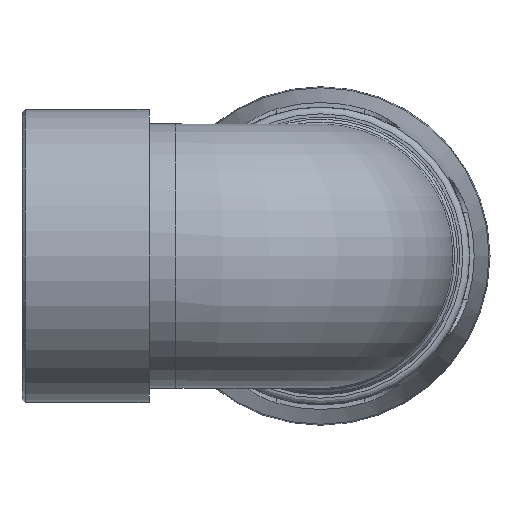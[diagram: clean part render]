
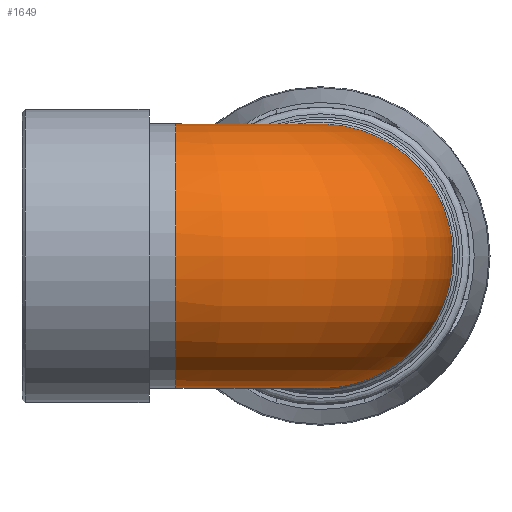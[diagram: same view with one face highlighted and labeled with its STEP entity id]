
A CAD part, left-side view. The second image highlights one B-rep face of the part: STEP entity #1649.
In plain terms, the highlighted toroidal (fillet/blend) face has major radius 36.4 mm and minor radius 33.144 mm.
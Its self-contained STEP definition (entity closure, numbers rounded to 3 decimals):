
#177=TOROIDAL_SURFACE('',#1800,36.4,33.144);
#187=B_SPLINE_CURVE_WITH_KNOTS('',3,(#2895,#2896,#2897,#2898,#2899,#2900,
#2901,#2902,#2903,#2904,#2905,#2906,#2907,#2908,#2909,#2910,#2911,#2912,
#2913,#2914,#2915,#2916,#2917,#2918),.UNSPECIFIED.,.T.,.F.,(4,1,1,1,1,1,
1,1,1,1,1,1,1,1,1,1,1,1,1,1,1,4),(-3.142,-3.029,-2.917,
-2.693,-2.468,-2.244,-1.795,
-1.346,-1.047,-0.748,-0.449,
-0.15,0.449,0.898,1.346,
1.795,2.244,2.468,2.693,2.917,
3.029,3.142),.UNSPECIFIED.);
#367=FACE_BOUND('',#522,.T.);
#398=FACE_OUTER_BOUND('',#521,.T.);
#521=EDGE_LOOP('',(#1202));
#522=EDGE_LOOP('',(#1203));
#669=CIRCLE('',#1795,33.144);
#763=VERTEX_POINT('',#2893);
#768=VERTEX_POINT('',#3012);
#930=EDGE_CURVE('',#763,#763,#187,.T.);
#935=EDGE_CURVE('',#768,#768,#669,.T.);
#1202=ORIENTED_EDGE('',*,*,#930,.F.);
#1203=ORIENTED_EDGE('',*,*,#935,.T.);
#1649=ADVANCED_FACE('',(#398,#367),#177,.T.);
#1795=AXIS2_PLACEMENT_3D('',#3013,#2049,#2050);
#1800=AXIS2_PLACEMENT_3D('',#3021,#2059,#2060);
#2049=DIRECTION('center_axis',(0.,-1.,0.));
#2050=DIRECTION('ref_axis',(-1.,0.,0.));
#2059=DIRECTION('center_axis',(0.,0.,1.));
#2060=DIRECTION('ref_axis',(1.,0.,0.));
#2893=CARTESIAN_POINT('',(33.338,35.293,0.));
#2895=CARTESIAN_POINT('Ctrl Pts',(33.339,35.295,0.));
#2896=CARTESIAN_POINT('Ctrl Pts',(33.339,35.295,1.244));
#2897=CARTESIAN_POINT('Ctrl Pts',(33.317,34.876,3.733));
#2898=CARTESIAN_POINT('Ctrl Pts',(33.435,33.239,8.593));
#2899=CARTESIAN_POINT('Ctrl Pts',(33.682,30.694,14.414));
#2900=CARTESIAN_POINT('Ctrl Pts',(33.824,26.532,20.713));
#2901=CARTESIAN_POINT('Ctrl Pts',(33.93,19.4,27.781));
#2902=CARTESIAN_POINT('Ctrl Pts',(33.977,7.929,33.375));
#2903=CARTESIAN_POINT('Ctrl Pts',(34.001,-5.693,33.45));
#2904=CARTESIAN_POINT('Ctrl Pts',(34.011,-16.647,29.206));
#2905=CARTESIAN_POINT('Ctrl Pts',(34.017,-24.552,22.961));
#2906=CARTESIAN_POINT('Ctrl Pts',(34.02,-30.236,14.655));
#2907=CARTESIAN_POINT('Ctrl Pts',(34.022,-34.247,1.827));
#2908=CARTESIAN_POINT('Ctrl Pts',(34.021,-31.906,-13.608));
#2909=CARTESIAN_POINT('Ctrl Pts',(34.014,-21.222,-26.882));
#2910=CARTESIAN_POINT('Ctrl Pts',(34.004,-7.401,-33.463));
#2911=CARTESIAN_POINT('Ctrl Pts',(33.977,7.931,-33.373));
#2912=CARTESIAN_POINT('Ctrl Pts',(33.93,19.4,-27.784));
#2913=CARTESIAN_POINT('Ctrl Pts',(33.824,26.532,-20.712));
#2914=CARTESIAN_POINT('Ctrl Pts',(33.682,30.694,-14.415));
#2915=CARTESIAN_POINT('Ctrl Pts',(33.435,33.239,-8.593));
#2916=CARTESIAN_POINT('Ctrl Pts',(33.317,34.876,-3.733));
#2917=CARTESIAN_POINT('Ctrl Pts',(33.339,35.295,-1.244));
#2918=CARTESIAN_POINT('Ctrl Pts',(33.339,35.295,0.));
#3012=CARTESIAN_POINT('',(33.144,36.4,0.));
#3013=CARTESIAN_POINT('Origin',(0.,36.4,0.));
#3021=CARTESIAN_POINT('Origin',(36.4,36.4,0.));
